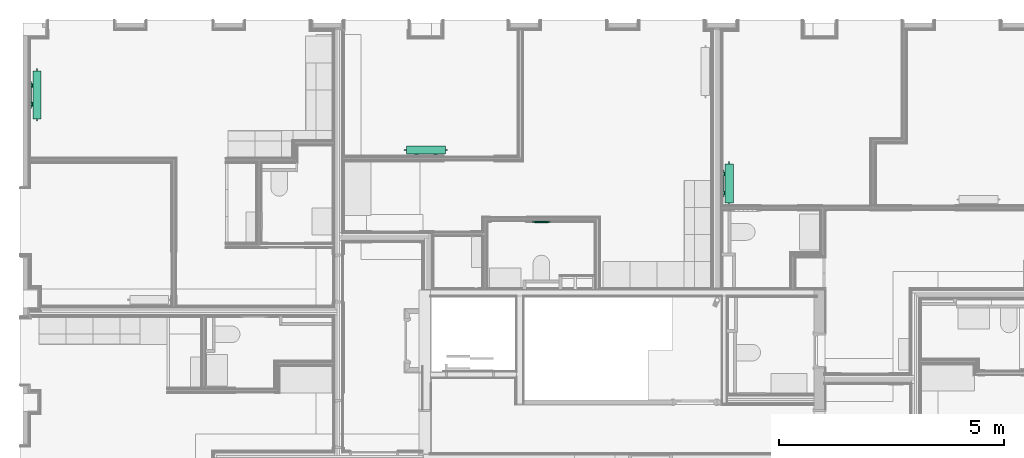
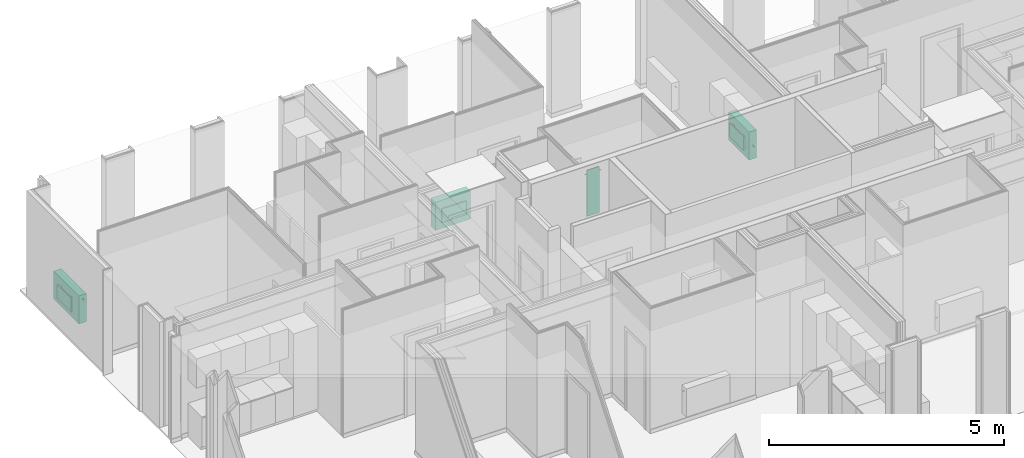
# One storey, part 58 of 65: 4 flow terminals.
"""IFC2X3 building model written with IfcOpenShell, lengths in metres."""

from ifc_helpers import new_model, entity, si_unit, converted_unit, derived_unit, money_unit, direction, frame, origin_with_axes, place, context, subcontext, project, spatial, open_shell, surface_model, material, type_object, element, save


model = new_model("IFC2X3")

# Units and contexts
model_context = context("Model", 3, precision=1e-05, world=origin_with_axes(), true_north=direction((0.0, 1.0)))
body_context = subcontext(model_context, "Body", "Model", "MODEL_VIEW", scale=1.0)
ifc_project = project(units=[si_unit("LENGTHUNIT", "METRE"), si_unit("AREAUNIT", "SQUARE_METRE"), si_unit("VOLUMEUNIT", "CUBIC_METRE"), si_unit("ABSORBEDDOSEUNIT", "GRAY"), si_unit("AMOUNTOFSUBSTANCEUNIT", "MOLE"), si_unit("DOSEEQUIVALENTUNIT", "SIEVERT"), si_unit("ELECTRICCAPACITANCEUNIT", "FARAD"), si_unit("ELECTRICCHARGEUNIT", "COULOMB"), si_unit("ELECTRICCONDUCTANCEUNIT", "SIEMENS"), si_unit("ELECTRICCURRENTUNIT", "AMPERE"), si_unit("ELECTRICRESISTANCEUNIT", "OHM"), si_unit("ELECTRICVOLTAGEUNIT", "VOLT"), si_unit("ENERGYUNIT", "JOULE"), si_unit("FORCEUNIT", "NEWTON"), si_unit("FREQUENCYUNIT", "HERTZ"), si_unit("ILLUMINANCEUNIT", "LUX"), si_unit("INDUCTANCEUNIT", "HENRY"), si_unit("LUMINOUSFLUXUNIT", "LUMEN"), si_unit("LUMINOUSINTENSITYUNIT", "CANDELA"), si_unit("MAGNETICFLUXDENSITYUNIT", "TESLA"), si_unit("MAGNETICFLUXUNIT", "WEBER"), si_unit("MASSUNIT", "GRAM"), converted_unit("PLANEANGLEUNIT", "degree", entity("IfcReal", 0.0174532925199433), si_unit("PLANEANGLEUNIT", "RADIAN"), dimensions=[0, 0, 0, 0, 0, 0, 0]), si_unit("POWERUNIT", "WATT"), si_unit("PRESSUREUNIT", "PASCAL"), si_unit("RADIOACTIVITYUNIT", "BECQUEREL"), si_unit("SOLIDANGLEUNIT", "STERADIAN"), si_unit("THERMODYNAMICTEMPERATUREUNIT", "KELVIN"), si_unit("TIMEUNIT", "SECOND"), derived_unit("ACCELERATIONUNIT", [(si_unit("LENGTHUNIT", "METRE"), 1), (si_unit("TIMEUNIT", "SECOND"), -2)]), derived_unit("ANGULARVELOCITYUNIT", [(converted_unit("PLANEANGLEUNIT", "degree", entity("IfcReal", 0.0174532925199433), si_unit("PLANEANGLEUNIT", "RADIAN"), dimensions=[0, 0, 0, 0, 0, 0, 0]), 1), (si_unit("TIMEUNIT", "SECOND"), -1)]), derived_unit("CURVATUREUNIT", [(converted_unit("PLANEANGLEUNIT", "degree", entity("IfcReal", 0.0174532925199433), si_unit("PLANEANGLEUNIT", "RADIAN"), dimensions=[0, 0, 0, 0, 0, 0, 0]), 1), (si_unit("LENGTHUNIT", "METRE"), -1)]), derived_unit("DYNAMICVISCOSITYUNIT", [(si_unit("PRESSUREUNIT", "PASCAL"), 1), (si_unit("TIMEUNIT", "SECOND"), 1)]), derived_unit("HEATFLUXDENSITYUNIT", [(si_unit("POWERUNIT", "WATT"), 1), (si_unit("LENGTHUNIT", "METRE"), -2)]), derived_unit("HEATINGVALUEUNIT", [(si_unit("ENERGYUNIT", "JOULE"), 1), (si_unit("MASSUNIT", "GRAM"), -1)]), derived_unit("INTEGERCOUNTRATEUNIT", [(si_unit("TIMEUNIT", "SECOND"), -1)]), derived_unit("IONCONCENTRATIONUNIT", [(si_unit("MASSUNIT", "GRAM"), 1), (si_unit("VOLUMEUNIT", "CUBIC_METRE"), -1)]), derived_unit("ISOTHERMALMOISTURECAPACITYUNIT", [(si_unit("VOLUMEUNIT", "CUBIC_METRE"), 1), (si_unit("MASSUNIT", "GRAM"), -1)]), derived_unit("KINEMATICVISCOSITYUNIT", [(si_unit("AREAUNIT", "SQUARE_METRE"), 1), (si_unit("TIMEUNIT", "SECOND"), -1)]), derived_unit("LINEARFORCEUNIT", [(si_unit("FORCEUNIT", "NEWTON"), 1), (si_unit("LENGTHUNIT", "METRE"), -1)]), derived_unit("LINEARMOMENTUNIT", [(si_unit("FORCEUNIT", "NEWTON"), 1), (si_unit("LENGTHUNIT", "METRE"), -1)]), derived_unit("LINEARSTIFFNESSUNIT", [(si_unit("FORCEUNIT", "NEWTON"), 1), (si_unit("LENGTHUNIT", "METRE"), -1)]), derived_unit("LINEARVELOCITYUNIT", [(si_unit("LENGTHUNIT", "METRE"), 1), (si_unit("TIMEUNIT", "SECOND"), -1)]), derived_unit("LUMINOUSINTENSITYDISTRIBUTIONUNIT", [(si_unit("LUMINOUSINTENSITYUNIT", "CANDELA"), 1), (si_unit("LUMINOUSFLUXUNIT", "LUMEN"), -1)]), derived_unit("MASSDENSITYUNIT", [(si_unit("MASSUNIT", "GRAM"), 1), (si_unit("VOLUMEUNIT", "CUBIC_METRE"), -1)]), derived_unit("MASSFLOWRATEUNIT", [(si_unit("MASSUNIT", "GRAM"), 1), (si_unit("TIMEUNIT", "SECOND"), -1)]), derived_unit("MASSPERLENGTHUNIT", [(si_unit("MASSUNIT", "GRAM"), 1), (si_unit("LENGTHUNIT", "METRE"), -1)]), derived_unit("MODULUSOFELASTICITYUNIT", [(si_unit("FORCEUNIT", "NEWTON"), 1), (si_unit("AREAUNIT", "SQUARE_METRE"), -1)]), derived_unit("MODULUSOFLINEARSUBGRADEREACTIONUNIT", [(si_unit("FORCEUNIT", "NEWTON"), 1), (si_unit("LENGTHUNIT", "METRE"), -2)]), derived_unit("MODULUSOFROTATIONALSUBGRADEREACTIONUNIT", [(si_unit("FORCEUNIT", "NEWTON"), 1), (si_unit("LENGTHUNIT", "METRE"), 1)]), derived_unit("MODULUSOFSUBGRADEREACTIONUNIT", [(si_unit("FORCEUNIT", "NEWTON"), 1), (si_unit("VOLUMEUNIT", "CUBIC_METRE"), -1)]), derived_unit("MOISTUREDIFFUSIVITYUNIT", [(si_unit("VOLUMEUNIT", "CUBIC_METRE"), 1), (si_unit("TIMEUNIT", "SECOND"), -1)]), derived_unit("MOLECULARWEIGHTUNIT", [(si_unit("MASSUNIT", "GRAM"), 1), (si_unit("AMOUNTOFSUBSTANCEUNIT", "MOLE"), -1)]), derived_unit("PLANARFORCEUNIT", [(si_unit("FORCEUNIT", "NEWTON"), 1), (si_unit("LENGTHUNIT", "METRE"), -2)]), derived_unit("ROTATIONALFREQUENCYUNIT", [(si_unit("TIMEUNIT", "SECOND"), -1)]), derived_unit("ROTATIONALMASSUNIT", [(si_unit("MASSUNIT", "GRAM"), 1), (si_unit("LENGTHUNIT", "METRE"), 2)]), derived_unit("ROTATIONALSTIFFNESSUNIT", [(si_unit("FORCEUNIT", "NEWTON"), 1), (si_unit("LENGTHUNIT", "METRE"), 1), (converted_unit("PLANEANGLEUNIT", "degree", entity("IfcReal", 0.0174532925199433), si_unit("PLANEANGLEUNIT", "RADIAN"), dimensions=[0, 0, 0, 0, 0, 0, 0]), -1)]), derived_unit("SECTIONAREAINTEGRALUNIT", [(si_unit("LENGTHUNIT", "METRE"), 5)]), derived_unit("SECTIONMODULUSUNIT", [(si_unit("LENGTHUNIT", "METRE"), 3)]), derived_unit("SHEARMODULUSUNIT", [(si_unit("FORCEUNIT", "NEWTON"), 1), (si_unit("AREAUNIT", "SQUARE_METRE"), -1)]), derived_unit("SOUNDPOWERUNIT", [(si_unit("ENERGYUNIT", "JOULE"), 1), (si_unit("TIMEUNIT", "SECOND"), -1)]), derived_unit("SPECIFICHEATCAPACITYUNIT", [(si_unit("FORCEUNIT", "NEWTON"), 1), (si_unit("MASSUNIT", "GRAM"), -1), (si_unit("THERMODYNAMICTEMPERATUREUNIT", "KELVIN"), -1)]), derived_unit("TEMPERATUREGRADIENTUNIT", [(si_unit("THERMODYNAMICTEMPERATUREUNIT", "KELVIN"), 1), (si_unit("LENGTHUNIT", "METRE"), -1)]), derived_unit("THERMALADMITTANCEUNIT", [(si_unit("POWERUNIT", "WATT"), 1), (si_unit("AREAUNIT", "SQUARE_METRE"), -1), (si_unit("THERMODYNAMICTEMPERATUREUNIT", "KELVIN"), -1)]), derived_unit("THERMALCONDUCTANCEUNIT", [(si_unit("POWERUNIT", "WATT"), 1), (si_unit("LENGTHUNIT", "METRE"), -1), (si_unit("THERMODYNAMICTEMPERATUREUNIT", "KELVIN"), -1)]), derived_unit("THERMALEXPANSIONCOEFFICIENTUNIT", [(si_unit("THERMODYNAMICTEMPERATUREUNIT", "KELVIN"), -1)]), derived_unit("THERMALRESISTANCEUNIT", [(si_unit("AREAUNIT", "SQUARE_METRE"), 1), (si_unit("POWERUNIT", "WATT"), -1)]), derived_unit("THERMALTRANSMITTANCEUNIT", [(si_unit("POWERUNIT", "WATT"), 1), (si_unit("AREAUNIT", "SQUARE_METRE"), -1), (si_unit("THERMODYNAMICTEMPERATUREUNIT", "KELVIN"), -1)]), derived_unit("TORQUEUNIT", [(si_unit("FORCEUNIT", "NEWTON"), 1), (si_unit("LENGTHUNIT", "METRE"), 1)]), derived_unit("VAPORPERMEABILITYUNIT", [(si_unit("MASSUNIT", "GRAM"), 1), (si_unit("TIMEUNIT", "SECOND"), -1)]), derived_unit("VOLUMETRICFLOWRATEUNIT", [(si_unit("VOLUMEUNIT", "CUBIC_METRE"), 1), (si_unit("TIMEUNIT", "SECOND"), -1)]), derived_unit("WARPINGCONSTANTUNIT", [(si_unit("LENGTHUNIT", "METRE"), 6)]), derived_unit("WARPINGMOMENTUNIT", [(si_unit("FORCEUNIT", "NEWTON"), 1), (si_unit("LENGTHUNIT", "METRE"), 2)]), money_unit("GBP")], contexts=[model_context])

# Site, building, storey, space
site_placement = place(None, origin_with_axes())
site = spatial("IfcSite", under=ifc_project, at=site_placement, Name="Site", CompositionType="ELEMENT")
building_placement = place(site_placement, origin_with_axes())
building = spatial("IfcBuilding", under=site, at=building_placement, Name="Building01", CompositionType="ELEMENT")
storey_placement = place(building_placement, frame((0.0, 0.0, 8.64), z_axis=(0.0, 0.0, 1.0), x_axis=(1.0, 0.0, 0.0)))
storey = spatial("IfcBuildingStorey", under=building, at=storey_placement, Name="2F", CompositionType="ELEMENT", Elevation=8.64)
space_1_placement = place(storey_placement, frame((0.318, 11.72567, 0.017975), z_axis=(0.0, 0.0, 1.0), x_axis=(1.0, 0.0, 0.0)))
space_1 = spatial("IfcSpace", under=storey, at=space_1_placement, Name="k/d/l", CompositionType="ELEMENT", InteriorOrExteriorSpace="NOTDEFINED")

# Flow terminal
ifc_material = material(Name="M_BSUK_Ventilation")
space_heater_type_1 = type_object("IfcSpaceHeaterType", Name="M-BmvRadiatorpanel-Panel", PredefinedType="NOTDEFINED")
flow_terminal_1_placement = place(storey_placement, frame((0.47825, 13.670846, 0.68), z_axis=(0.0, 0.0, 1.0), x_axis=(0.0, 1.0, 0.0)))
element("IfcFlowTerminal", 1, at=flow_terminal_1_placement, inside=space_1, type_object=space_heater_type_1, material=ifc_material, Name="M-BmvRadiatorpanel-Panel", ObjectType="M-BmvRadiatorpanel-Panel", context=body_context, shape_type="SurfaceModel", body=[
    surface_model("IfcShellBasedSurfaceModel", [(-1.069, -0.0925, 0.365), (-1.069, 0.0925, 0.365), (0.0, 0.0925, 0.365), (0.0, -0.0925, 0.365), (-1.069, -0.0925, -0.365), (-1.069, 0.0925, -0.365), (0.0, -0.0925, -0.365), (0.0, 0.0925, -0.365), (-0.2345, 0.12025, 0.175), (-0.8345, 0.12025, 0.175), (-0.8345, 0.14525, 0.175), (-0.2345, 0.14525, 0.175), (-0.8345, 0.14525, -0.175), (-0.2345, 0.14525, -0.175), (-0.8345, 0.12025, -0.175), (-0.2345, 0.12025, -0.175), (-0.3245, 0.0925, 0.0775), (-0.3245, 0.12025, 0.0775), (-0.307279, 0.12025, 0.080925), (-0.307279, 0.0925, 0.080925), (-0.29268, 0.12025, 0.09068), (-0.29268, 0.0925, 0.09068), (-0.282925, 0.12025, 0.105279), (-0.282925, 0.0925, 0.105279), (-0.2795, 0.12025, 0.1225), (-0.2795, 0.0925, 0.1225), (-0.282925, 0.12025, 0.139721), (-0.282925, 0.0925, 0.139721), (-0.29268, 0.12025, 0.15432), (-0.29268, 0.0925, 0.15432), (-0.307279, 0.12025, 0.164075), (-0.307279, 0.0925, 0.164075), (-0.3245, 0.12025, 0.1675), (-0.3245, 0.0925, 0.1675), (-0.341721, 0.12025, 0.164075), (-0.341721, 0.0925, 0.164075), (-0.35632, 0.12025, 0.15432), (-0.35632, 0.0925, 0.15432), (-0.366075, 0.12025, 0.139721), (-0.366075, 0.0925, 0.139721), (-0.3695, 0.12025, 0.1225), (-0.3695, 0.0925, 0.1225), (-0.366075, 0.12025, 0.105279), (-0.366075, 0.0925, 0.105279), (-0.35632, 0.12025, 0.09068), (-0.35632, 0.0925, 0.09068), (-0.341721, 0.12025, 0.080925), (-0.341721, 0.0925, 0.080925), (-0.7445, 0.0925, 0.0775), (-0.7445, 0.12025, 0.0775), (-0.727279, 0.12025, 0.080925), (-0.727279, 0.0925, 0.080925), (-0.71268, 0.12025, 0.09068), (-0.71268, 0.0925, 0.09068), (-0.702925, 0.12025, 0.105279), (-0.702925, 0.0925, 0.105279), (-0.6995, 0.12025, 0.1225), (-0.6995, 0.0925, 0.1225), (-0.702925, 0.12025, 0.139721), (-0.702925, 0.0925, 0.139721), (-0.71268, 0.12025, 0.15432), (-0.71268, 0.0925, 0.15432), (-0.727279, 0.12025, 0.164075), (-0.727279, 0.0925, 0.164075), (-0.7445, 0.12025, 0.1675), (-0.7445, 0.0925, 0.1675), (-0.761721, 0.12025, 0.164075), (-0.761721, 0.0925, 0.164075), (-0.77632, 0.12025, 0.15432), (-0.77632, 0.0925, 0.15432), (-0.786075, 0.12025, 0.139721), (-0.786075, 0.0925, 0.139721), (-0.7895, 0.12025, 0.1225), (-0.7895, 0.0925, 0.1225), (-0.786075, 0.12025, 0.105279), (-0.786075, 0.0925, 0.105279), (-0.77632, 0.12025, 0.09068), (-0.77632, 0.0925, 0.09068), (-0.761721, 0.12025, 0.080925), (-0.761721, 0.0925, 0.080925), (0.05, 0.0, -0.0225), (0.0, 0.0, -0.0225), (0.0, 0.004784, -0.021548), (0.05, 0.004784, -0.021548), (0.0, 0.008839, -0.018839), (0.05, 0.008839, -0.018839), (0.0, 0.011548, -0.014784), (0.05, 0.011548, -0.014784), (0.0, 0.0125, -0.01), (0.05, 0.0125, -0.01), (0.0, 0.011548, -0.005216), (0.05, 0.011548, -0.005216), (0.0, 0.008839, -0.001161), (0.05, 0.008839, -0.001161), (0.0, 0.004784, 0.001548), (0.05, 0.004784, 0.001548), (0.0, 0.0, 0.0025), (0.05, 0.0, 0.0025), (0.0, -0.004784, 0.001548), (0.05, -0.004784, 0.001548), (0.0, -0.008839, -0.001161), (0.05, -0.008839, -0.001161), (0.0, -0.011548, -0.005216), (0.05, -0.011548, -0.005216), (0.0, -0.0125, -0.01), (0.05, -0.0125, -0.01), (0.0, -0.011548, -0.014784), (0.05, -0.011548, -0.014784), (0.0, -0.008839, -0.018839), (0.05, -0.008839, -0.018839), (0.0, -0.004784, -0.021548), (0.05, -0.004784, -0.021548), (-1.119, 0.0, 0.2525), (-1.069, 0.0, 0.2525), (-1.069, -0.004784, 0.253452), (-1.119, -0.004784, 0.253452), (-1.069, -0.008839, 0.256161), (-1.119, -0.008839, 0.256161), (-1.069, -0.011548, 0.260216), (-1.119, -0.011548, 0.260216), (-1.069, -0.0125, 0.265), (-1.119, -0.0125, 0.265), (-1.069, -0.011548, 0.269784), (-1.119, -0.011548, 0.269784), (-1.069, -0.008839, 0.273839), (-1.119, -0.008839, 0.273839), (-1.069, -0.004784, 0.276548), (-1.119, -0.004784, 0.276548), (-1.069, 0.0, 0.2775), (-1.119, 0.0, 0.2775), (-1.069, 0.004784, 0.276548), (-1.119, 0.004784, 0.276548), (-1.069, 0.008839, 0.273839), (-1.119, 0.008839, 0.273839), (-1.069, 0.011548, 0.269784), (-1.119, 0.011548, 0.269784), (-1.069, 0.0125, 0.265), (-1.119, 0.0125, 0.265), (-1.069, 0.011548, 0.260216), (-1.119, 0.011548, 0.260216), (-1.069, 0.008839, 0.256161), (-1.119, 0.008839, 0.256161), (-1.069, 0.004784, 0.253452), (-1.119, 0.004784, 0.253452)], [open_shell([[[0, 1, 2, 3]], [[4, 5, 1, 0]], [[6, 7, 5, 4]], [[3, 2, 7, 6]], [[1, 5, 7, 2]], [[3, 6, 4, 0]], [[8, 9, 10, 11]], [[11, 10, 12, 13]], [[13, 12, 14, 15]], [[15, 14, 9, 8]], [[9, 14, 12, 10]], [[11, 13, 15, 8]], [[16, 17, 18, 19]], [[19, 18, 20, 21]], [[21, 20, 22, 23]], [[23, 22, 24, 25]], [[25, 24, 26, 27]], [[27, 26, 28, 29]], [[29, 28, 30, 31]], [[31, 30, 32, 33]], [[33, 32, 34, 35]], [[35, 34, 36, 37]], [[37, 36, 38, 39]], [[39, 38, 40, 41]], [[41, 40, 42, 43]], [[43, 42, 44, 45]], [[45, 44, 46, 47]], [[47, 46, 17, 16]], [[48, 49, 50, 51]], [[51, 50, 52, 53]], [[53, 52, 54, 55]], [[55, 54, 56, 57]], [[57, 56, 58, 59]], [[59, 58, 60, 61]], [[61, 60, 62, 63]], [[63, 62, 64, 65]], [[65, 64, 66, 67]], [[67, 66, 68, 69]], [[69, 68, 70, 71]], [[71, 70, 72, 73]], [[73, 72, 74, 75]], [[75, 74, 76, 77]], [[77, 76, 78, 79]], [[79, 78, 49, 48]], [[80, 81, 82, 83]], [[83, 82, 84, 85]], [[85, 84, 86, 87]], [[87, 86, 88, 89]], [[89, 88, 90, 91]], [[91, 90, 92, 93]], [[93, 92, 94, 95]], [[95, 94, 96, 97]], [[97, 96, 98, 99]], [[99, 98, 100, 101]], [[101, 100, 102, 103]], [[103, 102, 104, 105]], [[105, 104, 106, 107]], [[107, 106, 108, 109]], [[109, 108, 110, 111]], [[111, 110, 81, 80]], [[112, 113, 114, 115]], [[115, 114, 116, 117]], [[117, 116, 118, 119]], [[119, 118, 120, 121]], [[121, 120, 122, 123]], [[123, 122, 124, 125]], [[125, 124, 126, 127]], [[127, 126, 128, 129]], [[129, 128, 130, 131]], [[131, 130, 132, 133]], [[133, 132, 134, 135]], [[135, 134, 136, 137]], [[137, 136, 138, 139]], [[139, 138, 140, 141]], [[141, 140, 142, 143]], [[143, 142, 113, 112]]])]),
])

# Space
space_2_placement = place(storey_placement, frame((15.83, 8.82, 0.017975), z_axis=(0.0, 0.0, 1.0), x_axis=(0.0, -1.0, 0.0)))
space_2 = spatial("IfcSpace", under=storey, at=space_2_placement, Name="09", CompositionType="ELEMENT", InteriorOrExteriorSpace="NOTDEFINED")

# Flow terminal
flow_terminal_2_placement = place(storey_placement, frame((15.868382, 10.735286, 0.68), z_axis=(0.0, 0.0, 1.0), x_axis=(0.0, 1.0, 0.0)))
element("IfcFlowTerminal", 2, at=flow_terminal_2_placement, inside=space_2, type_object=space_heater_type_1, material=ifc_material, Name="M-BmvRadiatorpanel-Panel", ObjectType="M-BmvRadiatorpanel-Panel", context=body_context, shape_type="SurfaceModel", body=[
    surface_model("IfcShellBasedSurfaceModel", [(0.865, -0.0925, 0.365), (0.865, 0.0925, 0.365), (0.0, 0.0925, 0.365), (0.0, -0.0925, 0.365), (0.865, -0.0925, -0.365), (0.865, 0.0925, -0.365), (0.0, -0.0925, -0.365), (0.0, 0.0925, -0.365), (0.1325, 0.12025, 0.175), (0.7325, 0.12025, 0.175), (0.7325, 0.14525, 0.175), (0.1325, 0.14525, 0.175), (0.7325, 0.14525, -0.175), (0.1325, 0.14525, -0.175), (0.7325, 0.12025, -0.175), (0.1325, 0.12025, -0.175), (0.2225, 0.0925, 0.0775), (0.2225, 0.12025, 0.0775), (0.239721, 0.12025, 0.080925), (0.239721, 0.0925, 0.080925), (0.25432, 0.12025, 0.09068), (0.25432, 0.0925, 0.09068), (0.264075, 0.12025, 0.105279), (0.264075, 0.0925, 0.105279), (0.2675, 0.12025, 0.1225), (0.2675, 0.0925, 0.1225), (0.264075, 0.12025, 0.139721), (0.264075, 0.0925, 0.139721), (0.25432, 0.12025, 0.15432), (0.25432, 0.0925, 0.15432), (0.239721, 0.12025, 0.164075), (0.239721, 0.0925, 0.164075), (0.2225, 0.12025, 0.1675), (0.2225, 0.0925, 0.1675), (0.205279, 0.12025, 0.164075), (0.205279, 0.0925, 0.164075), (0.19068, 0.12025, 0.15432), (0.19068, 0.0925, 0.15432), (0.180925, 0.12025, 0.139721), (0.180925, 0.0925, 0.139721), (0.1775, 0.12025, 0.1225), (0.1775, 0.0925, 0.1225), (0.180925, 0.12025, 0.105279), (0.180925, 0.0925, 0.105279), (0.19068, 0.12025, 0.09068), (0.19068, 0.0925, 0.09068), (0.205279, 0.12025, 0.080925), (0.205279, 0.0925, 0.080925), (0.6425, 0.0925, 0.0775), (0.6425, 0.12025, 0.0775), (0.659721, 0.12025, 0.080925), (0.659721, 0.0925, 0.080925), (0.67432, 0.12025, 0.09068), (0.67432, 0.0925, 0.09068), (0.684075, 0.12025, 0.105279), (0.684075, 0.0925, 0.105279), (0.6875, 0.12025, 0.1225), (0.6875, 0.0925, 0.1225), (0.684075, 0.12025, 0.139721), (0.684075, 0.0925, 0.139721), (0.67432, 0.12025, 0.15432), (0.67432, 0.0925, 0.15432), (0.659721, 0.12025, 0.164075), (0.659721, 0.0925, 0.164075), (0.6425, 0.12025, 0.1675), (0.6425, 0.0925, 0.1675), (0.625279, 0.12025, 0.164075), (0.625279, 0.0925, 0.164075), (0.61068, 0.12025, 0.15432), (0.61068, 0.0925, 0.15432), (0.600925, 0.12025, 0.139721), (0.600925, 0.0925, 0.139721), (0.5975, 0.12025, 0.1225), (0.5975, 0.0925, 0.1225), (0.600925, 0.12025, 0.105279), (0.600925, 0.0925, 0.105279), (0.61068, 0.12025, 0.09068), (0.61068, 0.0925, 0.09068), (0.625279, 0.12025, 0.080925), (0.625279, 0.0925, 0.080925), (-0.05, 0.0, -0.0225), (0.0, 0.0, -0.0225), (0.0, -0.004784, -0.021548), (-0.05, -0.004784, -0.021548), (0.0, -0.008839, -0.018839), (-0.05, -0.008839, -0.018839), (0.0, -0.011548, -0.014784), (-0.05, -0.011548, -0.014784), (0.0, -0.0125, -0.01), (-0.05, -0.0125, -0.01), (0.0, -0.011548, -0.005216), (-0.05, -0.011548, -0.005216), (0.0, -0.008839, -0.001161), (-0.05, -0.008839, -0.001161), (0.0, -0.004784, 0.001548), (-0.05, -0.004784, 0.001548), (0.0, 0.0, 0.0025), (-0.05, 0.0, 0.0025), (0.0, 0.004784, 0.001548), (-0.05, 0.004784, 0.001548), (0.0, 0.008839, -0.001161), (-0.05, 0.008839, -0.001161), (0.0, 0.011548, -0.005216), (-0.05, 0.011548, -0.005216), (0.0, 0.0125, -0.01), (-0.05, 0.0125, -0.01), (0.0, 0.011548, -0.014784), (-0.05, 0.011548, -0.014784), (0.0, 0.008839, -0.018839), (-0.05, 0.008839, -0.018839), (0.0, 0.004784, -0.021548), (-0.05, 0.004784, -0.021548), (0.915, 0.0, 0.2525), (0.865, 0.0, 0.2525), (0.865, 0.004784, 0.253452), (0.915, 0.004784, 0.253452), (0.865, 0.008839, 0.256161), (0.915, 0.008839, 0.256161), (0.865, 0.011548, 0.260216), (0.915, 0.011548, 0.260216), (0.865, 0.0125, 0.265), (0.915, 0.0125, 0.265), (0.865, 0.011548, 0.269784), (0.915, 0.011548, 0.269784), (0.865, 0.008839, 0.273839), (0.915, 0.008839, 0.273839), (0.865, 0.004784, 0.276548), (0.915, 0.004784, 0.276548), (0.865, 0.0, 0.2775), (0.915, 0.0, 0.2775), (0.865, -0.004784, 0.276548), (0.915, -0.004784, 0.276548), (0.865, -0.008839, 0.273839), (0.915, -0.008839, 0.273839), (0.865, -0.011548, 0.269784), (0.915, -0.011548, 0.269784), (0.865, -0.0125, 0.265), (0.915, -0.0125, 0.265), (0.865, -0.011548, 0.260216), (0.915, -0.011548, 0.260216), (0.865, -0.008839, 0.256161), (0.915, -0.008839, 0.256161), (0.865, -0.004784, 0.253452), (0.915, -0.004784, 0.253452)], [open_shell([[[0, 1, 2, 3]], [[4, 5, 1, 0]], [[6, 7, 5, 4]], [[3, 2, 7, 6]], [[1, 5, 7, 2]], [[3, 6, 4, 0]], [[8, 9, 10, 11]], [[11, 10, 12, 13]], [[13, 12, 14, 15]], [[15, 14, 9, 8]], [[9, 14, 12, 10]], [[11, 13, 15, 8]], [[16, 17, 18, 19]], [[19, 18, 20, 21]], [[21, 20, 22, 23]], [[23, 22, 24, 25]], [[25, 24, 26, 27]], [[27, 26, 28, 29]], [[29, 28, 30, 31]], [[31, 30, 32, 33]], [[33, 32, 34, 35]], [[35, 34, 36, 37]], [[37, 36, 38, 39]], [[39, 38, 40, 41]], [[41, 40, 42, 43]], [[43, 42, 44, 45]], [[45, 44, 46, 47]], [[47, 46, 17, 16]], [[48, 49, 50, 51]], [[51, 50, 52, 53]], [[53, 52, 54, 55]], [[55, 54, 56, 57]], [[57, 56, 58, 59]], [[59, 58, 60, 61]], [[61, 60, 62, 63]], [[63, 62, 64, 65]], [[65, 64, 66, 67]], [[67, 66, 68, 69]], [[69, 68, 70, 71]], [[71, 70, 72, 73]], [[73, 72, 74, 75]], [[75, 74, 76, 77]], [[77, 76, 78, 79]], [[79, 78, 49, 48]], [[80, 81, 82, 83]], [[83, 82, 84, 85]], [[85, 84, 86, 87]], [[87, 86, 88, 89]], [[89, 88, 90, 91]], [[91, 90, 92, 93]], [[93, 92, 94, 95]], [[95, 94, 96, 97]], [[97, 96, 98, 99]], [[99, 98, 100, 101]], [[101, 100, 102, 103]], [[103, 102, 104, 105]], [[105, 104, 106, 107]], [[107, 106, 108, 109]], [[109, 108, 110, 111]], [[111, 110, 81, 80]], [[112, 113, 114, 115]], [[115, 114, 116, 117]], [[117, 116, 118, 119]], [[119, 118, 120, 121]], [[121, 120, 122, 123]], [[123, 122, 124, 125]], [[125, 124, 126, 127]], [[127, 126, 128, 129]], [[129, 128, 130, 131]], [[131, 130, 132, 133]], [[133, 132, 134, 135]], [[135, 134, 136, 137]], [[137, 136, 138, 139]], [[139, 138, 140, 141]], [[141, 140, 142, 143]], [[143, 142, 113, 112]]])]),
])

# Space
space_3_placement = place(storey_placement, frame((7.289669, 14.8, 0.017975), z_axis=(0.0, 0.0, 1.0), x_axis=(0.0, -1.0, 0.0)))
space_3 = spatial("IfcSpace", under=storey, at=space_3_placement, Name="15", CompositionType="ELEMENT", InteriorOrExteriorSpace="NOTDEFINED")

# Flow terminals
flow_terminal_3_placement = place(storey_placement, frame((9.5575, 11.908374, 0.68), z_axis=(0.0, 0.0, 1.0), x_axis=(-1.0, 0.0, 0.0)))
element("IfcFlowTerminal", 3, at=flow_terminal_3_placement, inside=space_3, type_object=space_heater_type_1, material=ifc_material, Name="M-BmvRadiatorpanel-Panel", ObjectType="M-BmvRadiatorpanel-Panel", context=body_context, shape_type="SurfaceModel", body=[
    surface_model("IfcShellBasedSurfaceModel", [(0.865, -0.0925, 0.365), (0.865, 0.0925, 0.365), (0.0, 0.0925, 0.365), (0.0, -0.0925, 0.365), (0.865, -0.0925, -0.365), (0.865, 0.0925, -0.365), (0.0, -0.0925, -0.365), (0.0, 0.0925, -0.365), (0.1325, 0.12025, 0.175), (0.7325, 0.12025, 0.175), (0.7325, 0.14525, 0.175), (0.1325, 0.14525, 0.175), (0.7325, 0.14525, -0.175), (0.1325, 0.14525, -0.175), (0.7325, 0.12025, -0.175), (0.1325, 0.12025, -0.175), (0.2225, 0.0925, 0.0775), (0.2225, 0.12025, 0.0775), (0.239721, 0.12025, 0.080925), (0.239721, 0.0925, 0.080925), (0.25432, 0.12025, 0.09068), (0.25432, 0.0925, 0.09068), (0.264075, 0.12025, 0.105279), (0.264075, 0.0925, 0.105279), (0.2675, 0.12025, 0.1225), (0.2675, 0.0925, 0.1225), (0.264075, 0.12025, 0.139721), (0.264075, 0.0925, 0.139721), (0.25432, 0.12025, 0.15432), (0.25432, 0.0925, 0.15432), (0.239721, 0.12025, 0.164075), (0.239721, 0.0925, 0.164075), (0.2225, 0.12025, 0.1675), (0.2225, 0.0925, 0.1675), (0.205279, 0.12025, 0.164075), (0.205279, 0.0925, 0.164075), (0.19068, 0.12025, 0.15432), (0.19068, 0.0925, 0.15432), (0.180925, 0.12025, 0.139721), (0.180925, 0.0925, 0.139721), (0.1775, 0.12025, 0.1225), (0.1775, 0.0925, 0.1225), (0.180925, 0.12025, 0.105279), (0.180925, 0.0925, 0.105279), (0.19068, 0.12025, 0.09068), (0.19068, 0.0925, 0.09068), (0.205279, 0.12025, 0.080925), (0.205279, 0.0925, 0.080925), (0.6425, 0.0925, 0.0775), (0.6425, 0.12025, 0.0775), (0.659721, 0.12025, 0.080925), (0.659721, 0.0925, 0.080925), (0.67432, 0.12025, 0.09068), (0.67432, 0.0925, 0.09068), (0.684075, 0.12025, 0.105279), (0.684075, 0.0925, 0.105279), (0.6875, 0.12025, 0.1225), (0.6875, 0.0925, 0.1225), (0.684075, 0.12025, 0.139721), (0.684075, 0.0925, 0.139721), (0.67432, 0.12025, 0.15432), (0.67432, 0.0925, 0.15432), (0.659721, 0.12025, 0.164075), (0.659721, 0.0925, 0.164075), (0.6425, 0.12025, 0.1675), (0.6425, 0.0925, 0.1675), (0.625279, 0.12025, 0.164075), (0.625279, 0.0925, 0.164075), (0.61068, 0.12025, 0.15432), (0.61068, 0.0925, 0.15432), (0.600925, 0.12025, 0.139721), (0.600925, 0.0925, 0.139721), (0.5975, 0.12025, 0.1225), (0.5975, 0.0925, 0.1225), (0.600925, 0.12025, 0.105279), (0.600925, 0.0925, 0.105279), (0.61068, 0.12025, 0.09068), (0.61068, 0.0925, 0.09068), (0.625279, 0.12025, 0.080925), (0.625279, 0.0925, 0.080925), (-0.05, 0.0, -0.0225), (0.0, 0.0, -0.0225), (0.0, -0.004784, -0.021548), (-0.05, -0.004784, -0.021548), (0.0, -0.008839, -0.018839), (-0.05, -0.008839, -0.018839), (0.0, -0.011548, -0.014784), (-0.05, -0.011548, -0.014784), (0.0, -0.0125, -0.01), (-0.05, -0.0125, -0.01), (0.0, -0.011548, -0.005216), (-0.05, -0.011548, -0.005216), (0.0, -0.008839, -0.001161), (-0.05, -0.008839, -0.001161), (0.0, -0.004784, 0.001548), (-0.05, -0.004784, 0.001548), (0.0, 0.0, 0.0025), (-0.05, 0.0, 0.0025), (0.0, 0.004784, 0.001548), (-0.05, 0.004784, 0.001548), (0.0, 0.008839, -0.001161), (-0.05, 0.008839, -0.001161), (0.0, 0.011548, -0.005216), (-0.05, 0.011548, -0.005216), (0.0, 0.0125, -0.01), (-0.05, 0.0125, -0.01), (0.0, 0.011548, -0.014784), (-0.05, 0.011548, -0.014784), (0.0, 0.008839, -0.018839), (-0.05, 0.008839, -0.018839), (0.0, 0.004784, -0.021548), (-0.05, 0.004784, -0.021548), (0.915, 0.0, 0.2525), (0.865, 0.0, 0.2525), (0.865, 0.004784, 0.253452), (0.915, 0.004784, 0.253452), (0.865, 0.008839, 0.256161), (0.915, 0.008839, 0.256161), (0.865, 0.011548, 0.260216), (0.915, 0.011548, 0.260216), (0.865, 0.0125, 0.265), (0.915, 0.0125, 0.265), (0.865, 0.011548, 0.269784), (0.915, 0.011548, 0.269784), (0.865, 0.008839, 0.273839), (0.915, 0.008839, 0.273839), (0.865, 0.004784, 0.276548), (0.915, 0.004784, 0.276548), (0.865, 0.0, 0.2775), (0.915, 0.0, 0.2775), (0.865, -0.004784, 0.276548), (0.915, -0.004784, 0.276548), (0.865, -0.008839, 0.273839), (0.915, -0.008839, 0.273839), (0.865, -0.011548, 0.269784), (0.915, -0.011548, 0.269784), (0.865, -0.0125, 0.265), (0.915, -0.0125, 0.265), (0.865, -0.011548, 0.260216), (0.915, -0.011548, 0.260216), (0.865, -0.008839, 0.256161), (0.915, -0.008839, 0.256161), (0.865, -0.004784, 0.253452), (0.915, -0.004784, 0.253452)], [open_shell([[[0, 1, 2, 3]], [[4, 5, 1, 0]], [[6, 7, 5, 4]], [[3, 2, 7, 6]], [[1, 5, 7, 2]], [[3, 6, 4, 0]], [[8, 9, 10, 11]], [[11, 10, 12, 13]], [[13, 12, 14, 15]], [[15, 14, 9, 8]], [[9, 14, 12, 10]], [[11, 13, 15, 8]], [[16, 17, 18, 19]], [[19, 18, 20, 21]], [[21, 20, 22, 23]], [[23, 22, 24, 25]], [[25, 24, 26, 27]], [[27, 26, 28, 29]], [[29, 28, 30, 31]], [[31, 30, 32, 33]], [[33, 32, 34, 35]], [[35, 34, 36, 37]], [[37, 36, 38, 39]], [[39, 38, 40, 41]], [[41, 40, 42, 43]], [[43, 42, 44, 45]], [[45, 44, 46, 47]], [[47, 46, 17, 16]], [[48, 49, 50, 51]], [[51, 50, 52, 53]], [[53, 52, 54, 55]], [[55, 54, 56, 57]], [[57, 56, 58, 59]], [[59, 58, 60, 61]], [[61, 60, 62, 63]], [[63, 62, 64, 65]], [[65, 64, 66, 67]], [[67, 66, 68, 69]], [[69, 68, 70, 71]], [[71, 70, 72, 73]], [[73, 72, 74, 75]], [[75, 74, 76, 77]], [[77, 76, 78, 79]], [[79, 78, 49, 48]], [[80, 81, 82, 83]], [[83, 82, 84, 85]], [[85, 84, 86, 87]], [[87, 86, 88, 89]], [[89, 88, 90, 91]], [[91, 90, 92, 93]], [[93, 92, 94, 95]], [[95, 94, 96, 97]], [[97, 96, 98, 99]], [[99, 98, 100, 101]], [[101, 100, 102, 103]], [[103, 102, 104, 105]], [[105, 104, 106, 107]], [[107, 106, 108, 109]], [[109, 108, 110, 111]], [[111, 110, 81, 80]], [[112, 113, 114, 115]], [[115, 114, 116, 117]], [[117, 116, 118, 119]], [[119, 118, 120, 121]], [[121, 120, 122, 123]], [[123, 122, 124, 125]], [[125, 124, 126, 127]], [[127, 126, 128, 129]], [[129, 128, 130, 131]], [[131, 130, 132, 133]], [[133, 132, 134, 135]], [[135, 134, 136, 137]], [[137, 136, 138, 139]], [[139, 138, 140, 141]], [[141, 140, 142, 143]], [[143, 142, 113, 112]]])]),
])
space_heater_type_2 = type_object("IfcSpaceHeaterType", Name="M-BmvRadiator-Column", PredefinedType="NOTDEFINED")
flow_terminal_4_placement = place(storey_placement, frame((11.843585, 10.3075, 1.2), z_axis=(0.0, 0.0, 1.0), x_axis=(1.0, 0.0, 0.0)))
element("IfcFlowTerminal", 4, at=flow_terminal_4_placement, inside=space_3, type_object=space_heater_type_2, material=ifc_material, Name="M-BmvRadiator-Column", ObjectType="M-BmvRadiator-Column", context=body_context, shape_type="SurfaceModel", body=[
    surface_model("IfcShellBasedSurfaceModel", [(0.0, -0.0125, 0.6), (0.0, -0.0125, -0.6), (0.0, 0.0125, -0.6), (0.0, 0.0125, 0.6), (-0.3, -0.0125, 0.6), (-0.3, -0.0125, -0.6), (-0.3, 0.0125, -0.6), (-0.3, 0.0125, 0.6), (-0.06, 0.0125, 0.6), (-0.06, -0.0125, 0.6), (-0.06, -0.0125, -0.6), (-0.06, 0.0125, -0.6), (-0.12, 0.0125, 0.6), (-0.12, -0.0125, 0.6), (-0.12, -0.0125, -0.6), (-0.12, 0.0125, -0.6), (-0.18, 0.0125, 0.6), (-0.18, -0.0125, 0.6), (-0.18, -0.0125, -0.6), (-0.18, 0.0125, -0.6), (-0.24, 0.0125, 0.6), (-0.24, -0.0125, 0.6), (-0.24, -0.0125, -0.6), (-0.24, 0.0125, -0.6), (0.05, 0.0, 0.4825), (0.0, 0.0, 0.4825), (0.0, 0.003827, 0.483261), (0.05, 0.003827, 0.483261), (0.0, 0.007071, 0.485429), (0.05, 0.007071, 0.485429), (0.0, 0.009239, 0.488673), (0.05, 0.009239, 0.488673), (0.0, 0.01, 0.4925), (0.05, 0.01, 0.4925), (0.0, 0.009239, 0.496327), (0.05, 0.009239, 0.496327), (0.0, 0.007071, 0.499571), (0.05, 0.007071, 0.499571), (0.0, 0.003827, 0.501739), (0.05, 0.003827, 0.501739), (0.0, 0.0, 0.5025), (0.05, 0.0, 0.5025), (0.0, -0.003827, 0.501739), (0.05, -0.003827, 0.501739), (0.0, -0.007071, 0.499571), (0.05, -0.007071, 0.499571), (0.0, -0.009239, 0.496327), (0.05, -0.009239, 0.496327), (0.0, -0.01, 0.4925), (0.05, -0.01, 0.4925), (0.0, -0.009239, 0.488673), (0.05, -0.009239, 0.488673), (0.0, -0.007071, 0.485429), (0.05, -0.007071, 0.485429), (0.0, -0.003827, 0.483261), (0.05, -0.003827, 0.483261), (-0.35, 0.0, 0.4884), (-0.3, 0.0, 0.4884), (-0.3, -0.003827, 0.489161), (-0.35, -0.003827, 0.489161), (-0.3, -0.007071, 0.491329), (-0.35, -0.007071, 0.491329), (-0.3, -0.009239, 0.494573), (-0.35, -0.009239, 0.494573), (-0.3, -0.01, 0.4984), (-0.35, -0.01, 0.4984), (-0.3, -0.009239, 0.502227), (-0.35, -0.009239, 0.502227), (-0.3, -0.007071, 0.505471), (-0.35, -0.007071, 0.505471), (-0.3, -0.003827, 0.507639), (-0.35, -0.003827, 0.507639), (-0.3, 0.0, 0.5084), (-0.35, 0.0, 0.5084), (-0.3, 0.003827, 0.507639), (-0.35, 0.003827, 0.507639), (-0.3, 0.007071, 0.505471), (-0.35, 0.007071, 0.505471), (-0.3, 0.009239, 0.502227), (-0.35, 0.009239, 0.502227), (-0.3, 0.01, 0.4984), (-0.35, 0.01, 0.4984), (-0.3, 0.009239, 0.494573), (-0.35, 0.009239, 0.494573), (-0.3, 0.007071, 0.491329), (-0.35, 0.007071, 0.491329), (-0.3, 0.003827, 0.489161), (-0.35, 0.003827, 0.489161)], [open_shell([[[0, 1, 2, 3]], [[4, 5, 6, 7]], [[8, 3, 0, 9]], [[9, 0, 1, 10]], [[10, 1, 2, 11]], [[11, 2, 3, 8]], [[12, 8, 9, 13]], [[13, 9, 10, 14]], [[14, 10, 11, 15]], [[15, 11, 8, 12]], [[16, 12, 13, 17]], [[17, 13, 14, 18]], [[18, 14, 15, 19]], [[19, 15, 12, 16]], [[20, 16, 17, 21]], [[21, 17, 18, 22]], [[22, 18, 19, 23]], [[23, 19, 16, 20]], [[7, 20, 21, 4]], [[4, 21, 22, 5]], [[5, 22, 23, 6]], [[6, 23, 20, 7]], [[24, 25, 26, 27]], [[27, 26, 28, 29]], [[29, 28, 30, 31]], [[31, 30, 32, 33]], [[33, 32, 34, 35]], [[35, 34, 36, 37]], [[37, 36, 38, 39]], [[39, 38, 40, 41]], [[41, 40, 42, 43]], [[43, 42, 44, 45]], [[45, 44, 46, 47]], [[47, 46, 48, 49]], [[49, 48, 50, 51]], [[51, 50, 52, 53]], [[53, 52, 54, 55]], [[55, 54, 25, 24]], [[56, 57, 58, 59]], [[59, 58, 60, 61]], [[61, 60, 62, 63]], [[63, 62, 64, 65]], [[65, 64, 66, 67]], [[67, 66, 68, 69]], [[69, 68, 70, 71]], [[71, 70, 72, 73]], [[73, 72, 74, 75]], [[75, 74, 76, 77]], [[77, 76, 78, 79]], [[79, 78, 80, 81]], [[81, 80, 82, 83]], [[83, 82, 84, 85]], [[85, 84, 86, 87]], [[87, 86, 57, 56]]])]),
])

save(model, "model.ifc")
